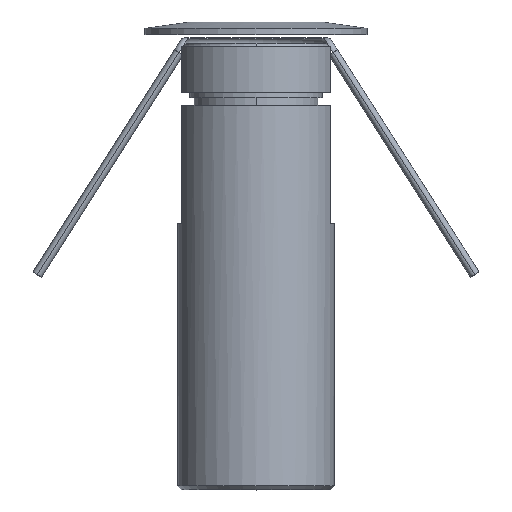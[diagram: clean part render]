
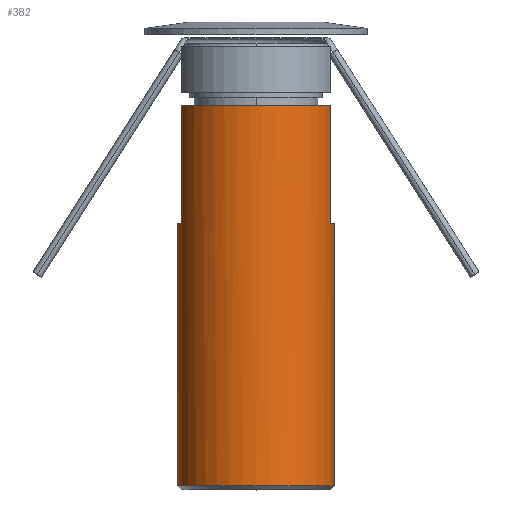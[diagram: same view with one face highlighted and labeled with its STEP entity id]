
A CAD part, top view. The second image highlights one B-rep face of the part: STEP entity #382.
In plain terms, the highlighted cylindrical face has radius 9.5 mm (diameter 19 mm), a partial arc.
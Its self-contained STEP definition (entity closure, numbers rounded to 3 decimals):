
#21=CARTESIAN_POINT('',(0.,-50.5,0.));
#22=DIRECTION('',(0.,1.,0.));
#23=DIRECTION('',(-1.,0.,0.));
#24=AXIS2_PLACEMENT_3D('',#21,#22,#23);
#26=CARTESIAN_POINT('',(0.,-18.75,0.));
#27=DIRECTION('',(0.,-1.,0.));
#28=DIRECTION('',(-0.947,0.,0.32));
#29=AXIS2_PLACEMENT_3D('',#26,#27,#28);
#31=DIRECTION('',(0.,-1.,0.));
#32=VECTOR('',#31,14.25);
#33=CARTESIAN_POINT('',(-9.,-4.5,3.041));
#34=LINE('',#33,#32);
#35=CARTESIAN_POINT('',(0.,-4.5,0.));
#36=DIRECTION('',(0.,1.,0.));
#37=DIRECTION('',(-0.947,0.,0.32));
#38=AXIS2_PLACEMENT_3D('',#35,#36,#37);
#40=DIRECTION('',(0.,-1.,0.));
#41=VECTOR('',#40,14.25);
#42=CARTESIAN_POINT('',(9.,-4.5,3.041));
#43=LINE('',#42,#41);
#44=CARTESIAN_POINT('',(0.,-18.75,0.));
#45=DIRECTION('',(0.,-1.,0.));
#46=DIRECTION('',(1.,0.,0.));
#47=AXIS2_PLACEMENT_3D('',#44,#45,#46);
#54=DIRECTION('',(0.,1.,0.));
#55=VECTOR('',#54,31.75);
#56=CARTESIAN_POINT('',(9.5,-50.5,0.));
#57=LINE('',#56,#55);
#81=DIRECTION('',(0.,1.,0.));
#82=VECTOR('',#81,31.75);
#83=CARTESIAN_POINT('',(-9.5,-50.5,0.));
#84=LINE('',#83,#82);
#265=CARTESIAN_POINT('',(9.5,-18.75,0.));
#266=CARTESIAN_POINT('',(9.,-18.75,3.041));
#267=VERTEX_POINT('',#265);
#268=VERTEX_POINT('',#266);
#269=CARTESIAN_POINT('',(-9.,-18.75,3.041));
#270=CARTESIAN_POINT('',(-9.5,-18.75,0.));
#271=VERTEX_POINT('',#269);
#272=VERTEX_POINT('',#270);
#289=CARTESIAN_POINT('',(9.,-4.5,3.041));
#290=VERTEX_POINT('',#289);
#291=CARTESIAN_POINT('',(-9.,-4.5,3.041));
#292=VERTEX_POINT('',#291);
#301=CARTESIAN_POINT('',(9.5,-50.5,0.));
#302=CARTESIAN_POINT('',(-9.5,-50.5,0.));
#303=VERTEX_POINT('',#301);
#304=VERTEX_POINT('',#302);
#359=CARTESIAN_POINT('',(0.,2.55,0.));
#360=DIRECTION('',(0.,-1.,0.));
#361=DIRECTION('',(-1.,0.,0.));
#362=AXIS2_PLACEMENT_3D('',#359,#360,#361);
#363=CYLINDRICAL_SURFACE('',#362,9.5);
#365=ORIENTED_EDGE('',*,*,#364,.F.);
#367=ORIENTED_EDGE('',*,*,#366,.T.);
#369=ORIENTED_EDGE('',*,*,#368,.F.);
#371=ORIENTED_EDGE('',*,*,#370,.F.);
#373=ORIENTED_EDGE('',*,*,#372,.T.);
#375=ORIENTED_EDGE('',*,*,#374,.T.);
#377=ORIENTED_EDGE('',*,*,#376,.F.);
#379=ORIENTED_EDGE('',*,*,#378,.F.);
#380=EDGE_LOOP('',(#365,#367,#369,#371,#373,#375,#377,#379));
#381=FACE_OUTER_BOUND('',#380,.F.);
#382=ADVANCED_FACE('',(#381),#363,.T.);
#25=CIRCLE('',#24,9.5);
#30=CIRCLE('',#29,9.5);
#39=CIRCLE('',#38,9.5);
#48=CIRCLE('',#47,9.5);
#364=EDGE_CURVE('',#304,#303,#25,.T.);
#366=EDGE_CURVE('',#304,#272,#84,.T.);
#368=EDGE_CURVE('',#271,#272,#30,.T.);
#370=EDGE_CURVE('',#292,#271,#34,.T.);
#372=EDGE_CURVE('',#292,#290,#39,.T.);
#374=EDGE_CURVE('',#290,#268,#43,.T.);
#376=EDGE_CURVE('',#267,#268,#48,.T.);
#378=EDGE_CURVE('',#303,#267,#57,.T.);
